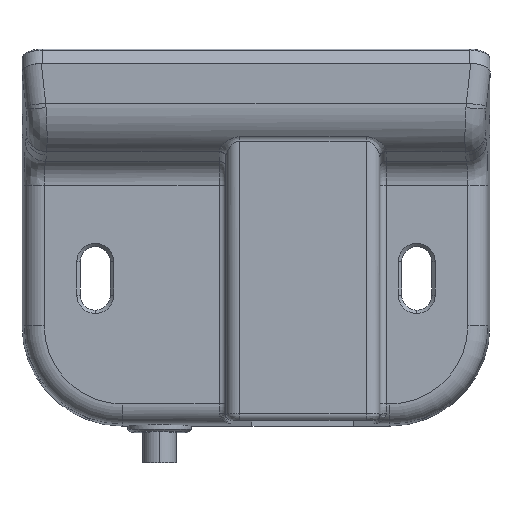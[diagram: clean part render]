
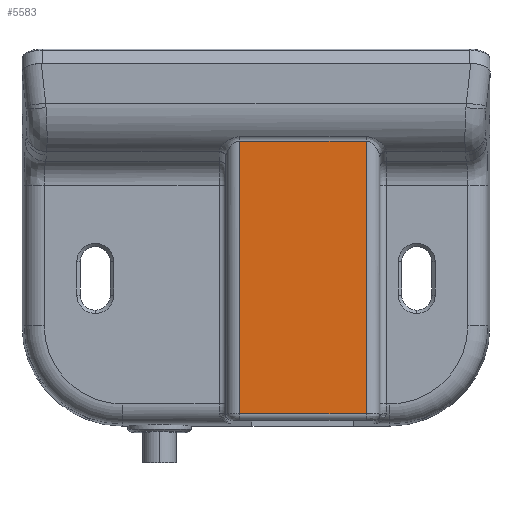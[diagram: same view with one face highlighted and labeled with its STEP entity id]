
A CAD part, front view. The second image highlights one B-rep face of the part: STEP entity #5583.
In plain terms, the highlighted planar face has unit normal (0, -1, 0).
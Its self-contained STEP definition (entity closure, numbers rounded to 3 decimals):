
#62 = DIRECTION ( 'NONE',  ( 1., 0., 0. ) ) ;
#679 = VERTEX_POINT ( 'NONE', #5256 ) ;
#1290 = EDGE_CURVE ( 'NONE', #11808, #679, #3881, .T. ) ;
#1361 = ORIENTED_EDGE ( 'NONE', *, *, #1290, .T. ) ;
#1571 = LINE ( 'NONE', #2992, #10945 ) ;
#1676 = DIRECTION ( 'NONE',  ( 1., 0., 0. ) ) ;
#1717 = DIRECTION ( 'NONE',  ( -1., 0., 0. ) ) ;
#1754 = PLANE ( 'NONE',  #7389 ) ;
#2167 = CARTESIAN_POINT ( 'NONE',  ( 16.5, 2., -32.66 ) ) ;
#2435 = DIRECTION ( 'NONE',  ( 0., 0., 1. ) ) ;
#2992 = CARTESIAN_POINT ( 'NONE',  ( 16.5, 2., -32.66 ) ) ;
#3021 = LINE ( 'NONE', #6460, #7699 ) ;
#3559 = CARTESIAN_POINT ( 'NONE',  ( 16.5, 2., 8.147 ) ) ;
#3589 = CARTESIAN_POINT ( 'NONE',  ( 18.5, 2., -62.675 ) ) ;
#3655 = ORIENTED_EDGE ( 'NONE', *, *, #7251, .T. ) ;
#3745 = FACE_OUTER_BOUND ( 'NONE', #6902, .T. ) ;
#3881 = LINE ( 'NONE', #11519, #5665 ) ;
#4802 = EDGE_CURVE ( 'NONE', #4956, #5117, #8292, .T. ) ;
#4956 = VERTEX_POINT ( 'NONE', #2167 ) ;
#5117 = VERTEX_POINT ( 'NONE', #3559 ) ;
#5256 = CARTESIAN_POINT ( 'NONE',  ( -2.5, 2., -32.66 ) ) ;
#5510 = VECTOR ( 'NONE', #2435, 1000. ) ;
#5583 = ADVANCED_FACE ( 'NONE', ( #3745 ), #1754, .T. ) ;
#5665 = VECTOR ( 'NONE', #10578, 1000. ) ;
#5867 = CARTESIAN_POINT ( 'NONE',  ( -2.5, 2., 8.147 ) ) ;
#6460 = CARTESIAN_POINT ( 'NONE',  ( -2.5, 2., 8.147 ) ) ;
#6565 = ORIENTED_EDGE ( 'NONE', *, *, #11237, .T. ) ;
#6902 = EDGE_LOOP ( 'NONE', ( #8640, #6565, #1361, #3655 ) ) ;
#7251 = EDGE_CURVE ( 'NONE', #679, #4956, #1571, .T. ) ;
#7389 = AXIS2_PLACEMENT_3D ( 'NONE', #3589, #9245, #1676 ) ;
#7699 = VECTOR ( 'NONE', #1717, 1000. ) ;
#8292 = LINE ( 'NONE', #11846, #5510 ) ;
#8640 = ORIENTED_EDGE ( 'NONE', *, *, #4802, .T. ) ;
#9245 = DIRECTION ( 'NONE',  ( 0., -1., 0. ) ) ;
#10578 = DIRECTION ( 'NONE',  ( 0., 0., -1. ) ) ;
#10945 = VECTOR ( 'NONE', #62, 1000. ) ;
#11237 = EDGE_CURVE ( 'NONE', #5117, #11808, #3021, .T. ) ;
#11519 = CARTESIAN_POINT ( 'NONE',  ( -2.5, 2., -62.675 ) ) ;
#11808 = VERTEX_POINT ( 'NONE', #5867 ) ;
#11846 = CARTESIAN_POINT ( 'NONE',  ( 16.5, 2., -62.675 ) ) ;
